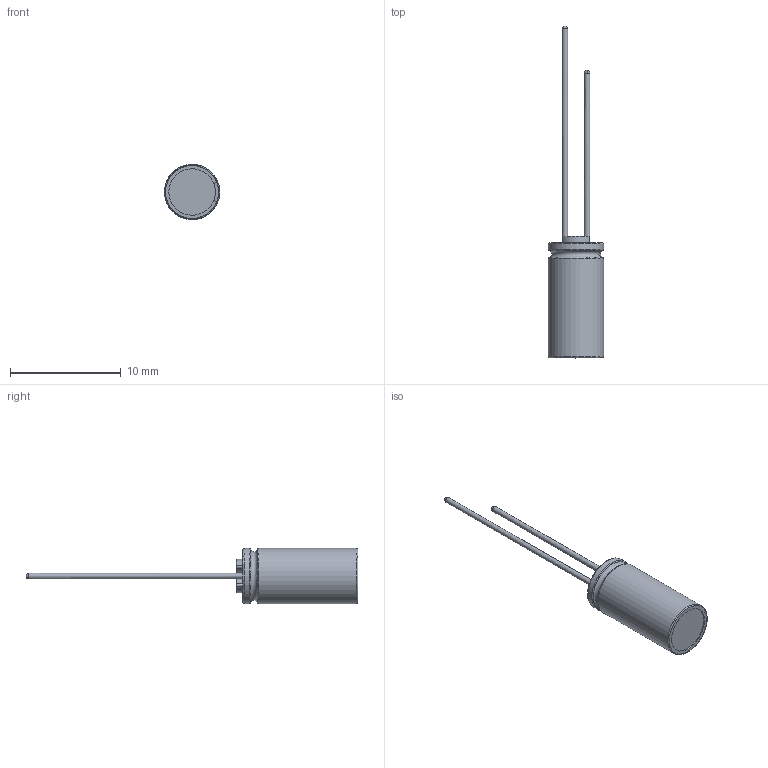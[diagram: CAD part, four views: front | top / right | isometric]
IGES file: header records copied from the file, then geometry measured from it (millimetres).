
Start section: JAMA-IS VERSION  1.0
Bounding box: 4.99 x 30 x 5 mm (x, y, z)
Surface area: 605.6 mm2 (no closed solid volume)
Topology: 0 solids, 0 shells, 79 faces, 971 edges, 960 vertices
Faces by surface type: bspline 79
